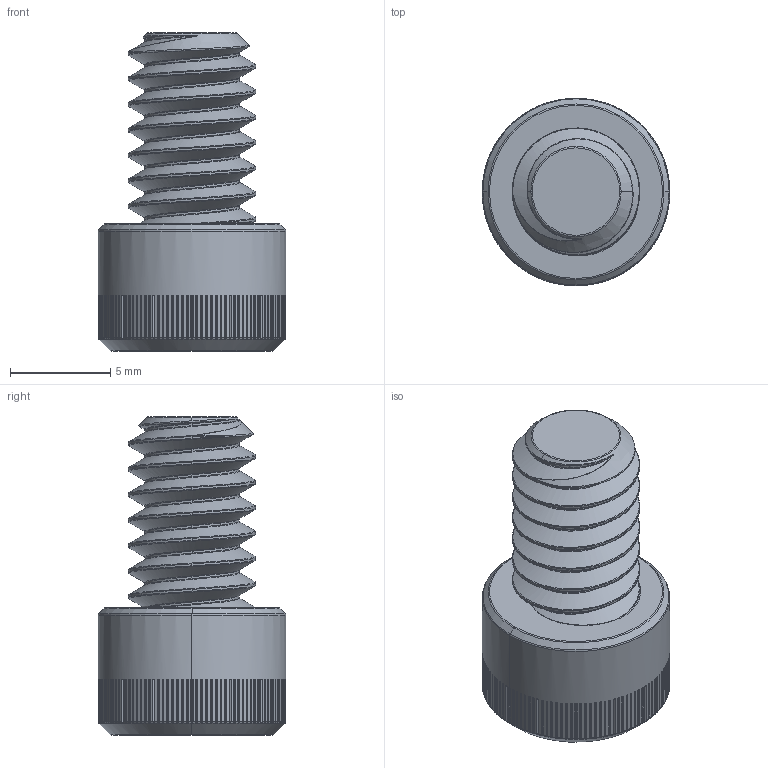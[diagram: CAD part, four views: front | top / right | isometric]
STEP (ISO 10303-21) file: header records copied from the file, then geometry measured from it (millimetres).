
FILE_DESCRIPTION (( 'STEP AP203' ), '1' );
FILE_NAME ('632410.STEP', '2020-04-27T15:02:39', ( '' ), ( '' ), 'SwSTEP 2.0', 'SolidWorks 2016', '' );
FILE_SCHEMA (( 'CONFIG_CONTROL_DESIGN' ));
Products named in the file (1): 632410
Bounding box: 9.35 x 9.35 x 15.88 mm (x, y, z)
Volume: 584.3 mm3; surface area: 638.4 mm2
Topology: 1 solids, 1 shells, 2624 faces, 6265 edges, 3359 vertices
Faces by surface type: bspline 1120, cylinder 709, plane 375, torus 255, sphere 157, cone 8
Entity records: 108072 total; most frequent: CARTESIAN_POINT 57280, ORIENTED_EDGE 11854, DIRECTION 8793, EDGE_CURVE 5927, AXIS2_PLACEMENT_3D 3730, VERTEX_POINT 3307, EDGE_LOOP 2626, ADVANCED_FACE 2624
